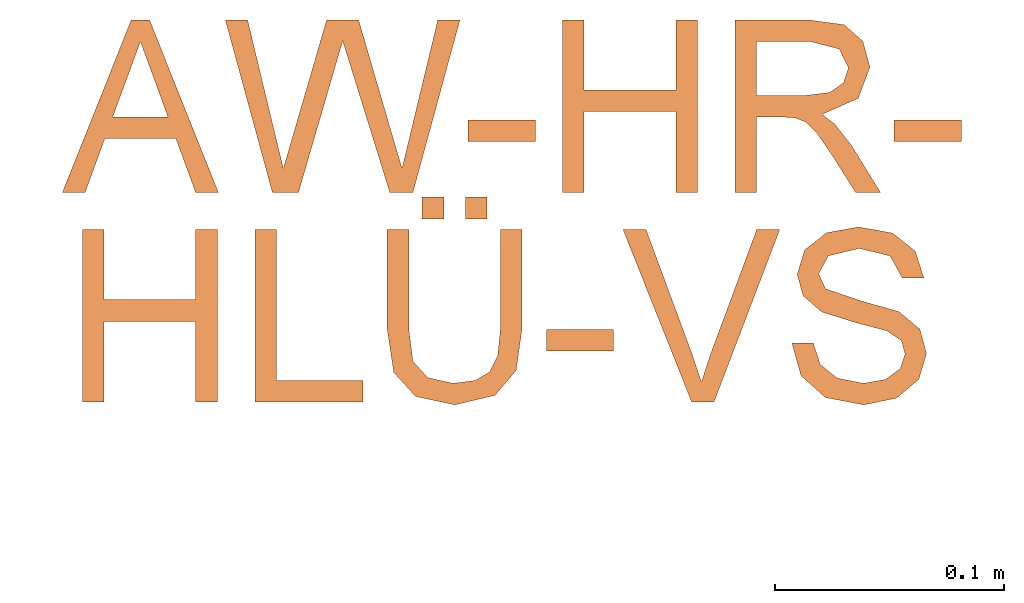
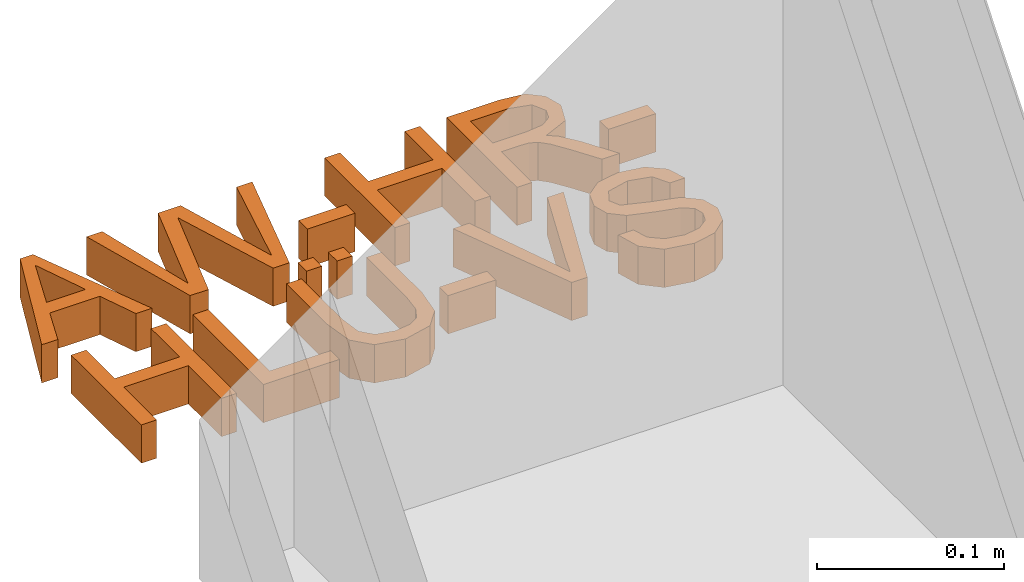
# Not in any storey, part 2 of 2: 1 proxy.
"""IFC4 model written with IfcOpenShell, lengths in metres."""

from ifc_helpers import new_model, entity, si_unit, converted_unit, derived_unit, direction, frame, origin, place, context, subcontext, project, spatial, indexed_curve, outline, extrude, type_object, element, save


model = new_model("IFC4")

# Units and contexts
model_context = context("Model", 3, precision=1e-05, world=origin(), true_north=direction((6.123031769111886e-17, 1.0)))
body_context = subcontext(model_context, "Body", "Model", "MODEL_VIEW")
ifc_project = project(units=[si_unit("LENGTHUNIT", "METRE"), si_unit("AREAUNIT", "SQUARE_METRE"), si_unit("VOLUMEUNIT", "CUBIC_METRE"), converted_unit("PLANEANGLEUNIT", "DEGREE", entity("IfcRatioMeasure", 0.017453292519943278), si_unit("PLANEANGLEUNIT", "RADIAN"), dimensions=[0, 0, 0, 0, 0, 0, 0]), si_unit("MASSUNIT", "GRAM", prefix="KILO"), derived_unit("MASSDENSITYUNIT", [(si_unit("MASSUNIT", "GRAM", prefix="KILO"), 1), (si_unit("LENGTHUNIT", "METRE"), -3)]), derived_unit("IONCONCENTRATIONUNIT", [(si_unit("MASSUNIT", "GRAM", prefix="KILO"), 1), (si_unit("LENGTHUNIT", "METRE"), -3)]), derived_unit("MOMENTOFINERTIAUNIT", [(si_unit("LENGTHUNIT", "METRE"), 4)]), si_unit("TIMEUNIT", "SECOND"), si_unit("FREQUENCYUNIT", "HERTZ"), si_unit("THERMODYNAMICTEMPERATUREUNIT", "DEGREE_CELSIUS"), derived_unit("THERMALTRANSMITTANCEUNIT", [(si_unit("MASSUNIT", "GRAM", prefix="KILO"), 1), (si_unit("THERMODYNAMICTEMPERATUREUNIT", "KELVIN"), -1), (si_unit("TIMEUNIT", "SECOND"), -3)]), derived_unit("THERMALCONDUCTANCEUNIT", [(si_unit("MASSUNIT", "GRAM", prefix="KILO"), 1), (si_unit("THERMODYNAMICTEMPERATUREUNIT", "KELVIN"), -1), (si_unit("TIMEUNIT", "SECOND"), -3), (si_unit("LENGTHUNIT", "METRE"), 1)]), derived_unit("VOLUMETRICFLOWRATEUNIT", [(si_unit("LENGTHUNIT", "METRE"), 3), (si_unit("TIMEUNIT", "SECOND"), -1)]), derived_unit("MASSFLOWRATEUNIT", [(si_unit("MASSUNIT", "GRAM", prefix="KILO"), 1), (si_unit("TIMEUNIT", "SECOND"), -1)]), derived_unit("ROTATIONALFREQUENCYUNIT", [(si_unit("TIMEUNIT", "SECOND"), -1)]), si_unit("ELECTRICCURRENTUNIT", "AMPERE"), si_unit("ELECTRICVOLTAGEUNIT", "VOLT"), si_unit("POWERUNIT", "WATT"), si_unit("FORCEUNIT", "NEWTON", prefix="KILO"), si_unit("ILLUMINANCEUNIT", "LUX"), si_unit("LUMINOUSFLUXUNIT", "LUMEN"), si_unit("LUMINOUSINTENSITYUNIT", "CANDELA"), derived_unit("USERDEFINED", [(si_unit("MASSUNIT", "GRAM", prefix="KILO"), -1), (si_unit("LENGTHUNIT", "METRE"), -2), (si_unit("TIMEUNIT", "SECOND"), 3), (si_unit("LUMINOUSFLUXUNIT", "LUMEN"), 1)]), derived_unit("USERDEFINED", [(si_unit("MASSUNIT", "GRAM", prefix="KILO"), 1), (si_unit("TIMEUNIT", "SECOND"), -3), (si_unit("LENGTHUNIT", "METRE"), 3), (si_unit("ELECTRICCURRENTUNIT", "AMPERE"), -2)]), derived_unit("SOUNDPOWERUNIT", [(si_unit("MASSUNIT", "GRAM", prefix="KILO"), 1), (si_unit("TIMEUNIT", "SECOND"), -3), (si_unit("LENGTHUNIT", "METRE"), 2)]), derived_unit("SOUNDPRESSUREUNIT", [(si_unit("MASSUNIT", "GRAM", prefix="KILO"), 1), (si_unit("LENGTHUNIT", "METRE"), -1), (si_unit("TIMEUNIT", "SECOND"), -2)]), derived_unit("LINEARVELOCITYUNIT", [(si_unit("LENGTHUNIT", "METRE"), 1), (si_unit("TIMEUNIT", "SECOND"), -1)]), si_unit("PRESSUREUNIT", "PASCAL"), derived_unit("USERDEFINED", [(si_unit("MASSUNIT", "GRAM", prefix="KILO"), 1), (si_unit("LENGTHUNIT", "METRE"), -2), (si_unit("TIMEUNIT", "SECOND"), -2)]), derived_unit("LINEARFORCEUNIT", [(si_unit("MASSUNIT", "GRAM", prefix="KILO"), 1), (si_unit("TIMEUNIT", "SECOND"), -2)]), derived_unit("PLANARFORCEUNIT", [(si_unit("MASSUNIT", "GRAM", prefix="KILO"), 1), (si_unit("LENGTHUNIT", "METRE"), -1), (si_unit("TIMEUNIT", "SECOND"), -2)]), derived_unit("SPECIFICHEATCAPACITYUNIT", [(si_unit("THERMODYNAMICTEMPERATUREUNIT", "KELVIN"), -1), (si_unit("LENGTHUNIT", "METRE"), 2), (si_unit("TIMEUNIT", "SECOND"), -2)]), derived_unit("HEATINGVALUEUNIT", [(si_unit("LENGTHUNIT", "METRE"), 2), (si_unit("TIMEUNIT", "SECOND"), -2)]), derived_unit("VAPORPERMEABILITYUNIT", [(si_unit("LENGTHUNIT", "METRE"), -1), (si_unit("TIMEUNIT", "SECOND"), 1)]), derived_unit("DYNAMICVISCOSITYUNIT", [(si_unit("MASSUNIT", "GRAM", prefix="KILO"), 1), (si_unit("TIMEUNIT", "SECOND"), -1), (si_unit("LENGTHUNIT", "METRE"), -1)]), derived_unit("THERMALEXPANSIONCOEFFICIENTUNIT", [(si_unit("THERMODYNAMICTEMPERATUREUNIT", "KELVIN"), -1)]), derived_unit("MODULUSOFELASTICITYUNIT", [(si_unit("MASSUNIT", "GRAM", prefix="KILO"), 1), (si_unit("LENGTHUNIT", "METRE"), -1), (si_unit("TIMEUNIT", "SECOND"), -2)]), derived_unit("ISOTHERMALMOISTURECAPACITYUNIT", [(si_unit("LENGTHUNIT", "METRE"), 3), (si_unit("MASSUNIT", "GRAM", prefix="KILO"), -1)]), derived_unit("MOISTUREDIFFUSIVITYUNIT", [(si_unit("TIMEUNIT", "SECOND"), -1), (si_unit("LENGTHUNIT", "METRE"), 2)])], contexts=[model_context])

# Site
site_placement = place(None, origin())
site = spatial("IfcSite", under=ifc_project, at=site_placement, Name="Default", CompositionType="ELEMENT")

# Proxy
building_element_proxy_type = type_object("IfcBuildingElementProxyType", Name="Modelltext:075mm Arial", PredefinedType="NOTDEFINED")
proxy_placement = place(site_placement, origin())
element("IfcBuildingElementProxy", 1, at=proxy_placement, inside=site, type_object=building_element_proxy_type, Name="Modelltext:075mm Arial", ObjectType="Modelltext:075mm Arial", PredefinedType="NOTDEFINED", context=body_context, shape_type="SweptSolid", body=[
    extrude(outline(indexed_curve([(-0.03408196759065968, -0.02472167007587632), (-0.024130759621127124, -0.02472167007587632), (-0.015522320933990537, -0.0011772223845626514), (0.015508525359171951, -0.0011772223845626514), (0.024135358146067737, -0.02472167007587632), (0.03408656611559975, -0.02472167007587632), (0.0040122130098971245, 0.05062056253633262), (-0.004007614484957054, 0.05062056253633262), (-0.03408196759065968, -0.02472167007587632)], self_intersect=False), holes=[indexed_curve([(-0.012064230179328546, 0.008240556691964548), (-0.004688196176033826, 0.0283820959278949), (2.299262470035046e-06, 0.041202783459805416), (0.005281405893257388, 0.026763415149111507), (0.012068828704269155, 0.008240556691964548), (-0.012064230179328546, 0.008240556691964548)], self_intersect=False)]), frame((2.475415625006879, 47.88453968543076, 0.0)), (0.0, 0.0, 1.0), 0.025),
    extrude(outline(indexed_curve([(-0.03048676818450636, -0.04038957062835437), (-0.019119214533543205, -0.04038957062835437), (-0.002656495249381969, 0.01608031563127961), (0.00017619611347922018, 0.025847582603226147), (0.002696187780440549, 0.0177357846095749), (0.020759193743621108, -0.04038957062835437), (0.030820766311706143, -0.04038957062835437), (0.05138536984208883, 0.03495266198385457), (0.04167328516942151, 0.03495266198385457), (0.02964354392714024, -0.01500571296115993), (0.02607508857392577, -0.029849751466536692), (0.018000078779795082, -0.002221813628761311), (0.007147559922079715, 0.03495266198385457), (-0.006850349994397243, 0.03495266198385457), (-0.021786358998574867, -0.016330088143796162), (-0.02572269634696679, -0.029849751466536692), (-0.02940151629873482, -0.014564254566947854), (-0.04132089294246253, 0.03495266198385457), (-0.05103297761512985, 0.03495266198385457), (-0.03048676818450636, -0.04038957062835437)], self_intersect=False)), frame((2.5635334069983, 47.90020758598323, 0.0)), (0.0, 0.0, 1.0), 0.025),
    extrude(outline(indexed_curve([(-0.014715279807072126, -0.004708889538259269), (0.014715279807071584, -0.004708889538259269), (0.014715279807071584, 0.004708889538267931), (-0.014715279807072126, 0.004708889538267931), (-0.014715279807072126, -0.004708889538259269)], self_intersect=False)), frame((2.633165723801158, 47.88689413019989, 0.0)), (0.0, 0.0, 1.0), 0.025),
    extrude(outline(indexed_curve([(-0.02943055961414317, -0.038455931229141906), (-0.020012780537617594, -0.038455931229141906), (-0.020012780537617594, -0.0031392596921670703), (0.020012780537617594, -0.0031392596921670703), (0.020012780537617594, -0.038455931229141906), (0.02943055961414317, -0.038455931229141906), (0.02943055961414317, 0.03688630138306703), (0.020012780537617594, 0.03688630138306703), (0.020012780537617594, 0.006278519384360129), (-0.020012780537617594, 0.006278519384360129), (-0.020012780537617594, 0.03688630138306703), (-0.02943055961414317, 0.03688630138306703), (-0.02943055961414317, -0.038455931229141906)], self_intersect=False)), frame((2.68908378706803, 47.89827394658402, 0.0)), (0.0, 0.0, 1.0), 0.025),
    extrude(outline(indexed_curve([(-0.035363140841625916, -0.0337691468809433), (-0.0259453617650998, -0.0337691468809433), (-0.0259453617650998, -0.0008069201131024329), (-0.014577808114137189, -0.0008069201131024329), (-0.009114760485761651, -0.0011380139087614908), (-0.00463579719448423, -0.00293143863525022), (0.0003398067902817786, -0.007815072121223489), (0.007421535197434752, -0.01815255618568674), (0.017225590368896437, -0.0337691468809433), (0.028170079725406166, -0.0337691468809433), (0.01560690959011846, -0.013351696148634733), (0.007973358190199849, -0.003658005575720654), (0.0026206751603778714, 0.00037030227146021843), (0.018393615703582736, 0.007378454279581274), (0.023497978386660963, 0.020953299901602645), (0.020416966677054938, 0.032348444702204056), (0.01217640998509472, 0.039540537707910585), (-0.0028975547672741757, 0.041573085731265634), (-0.035363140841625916, 0.041573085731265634), (-0.035363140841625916, -0.0337691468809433)], self_intersect=False), holes=[indexed_curve([(-0.0259453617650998, 0.008610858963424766), (-0.0259453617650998, 0.03215530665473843), (-0.0024928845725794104, 0.03215530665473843), (0.01009787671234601, 0.028899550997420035), (0.014080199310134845, 0.020603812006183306), (0.011992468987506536, 0.01421186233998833), (0.005885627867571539, 0.009944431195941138), (-0.0048657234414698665, 0.008610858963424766), (-0.0259453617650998, 0.008610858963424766)], self_intersect=False)]), frame((2.7703586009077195, 47.893587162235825, 0.0)), (0.0, 0.0, 1.0), 0.025),
    extrude(outline(indexed_curve([(-0.014715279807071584, -0.004708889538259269), (0.014715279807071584, -0.004708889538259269), (0.014715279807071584, 0.004708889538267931), (-0.014715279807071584, 0.004708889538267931), (-0.014715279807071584, -0.004708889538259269)], self_intersect=False)), frame((2.8191668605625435, 47.88689413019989, 0.0)), (0.0, 0.0, 1.0), 0.025),
    extrude(outline(indexed_curve([(-0.02943055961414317, -0.03845593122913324), (-0.020012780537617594, -0.03845593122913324), (-0.020012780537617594, -0.0031392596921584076), (0.020012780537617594, -0.0031392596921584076), (0.020012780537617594, -0.03845593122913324), (0.02943055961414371, -0.03845593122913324), (0.02943055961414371, 0.03688630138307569), (0.020012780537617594, 0.03688630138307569), (0.020012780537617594, 0.006278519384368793), (-0.020012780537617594, 0.006278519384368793), (-0.020012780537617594, 0.03688630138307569), (-0.02943055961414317, 0.03688630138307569), (-0.02943055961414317, -0.03845593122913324)], self_intersect=False)), frame((2.479538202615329, 47.80679283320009, 0.0)), (0.0, 0.0, 1.0), 0.025),
    extrude(outline(indexed_curve([(-0.01883555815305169, -0.0282533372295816), (0.028253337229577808, -0.0282533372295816), (0.028253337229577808, -0.0188355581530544), (-0.009417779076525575, -0.0188355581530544), (-0.009417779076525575, 0.04708889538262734), (-0.01883555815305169, 0.04708889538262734), (-0.01883555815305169, -0.0282533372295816)], self_intersect=False)), frame((2.5442854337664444, 47.79659023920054, 0.0)), (0.0, 0.0, 1.0), 0.025),
    extrude(outline(indexed_curve([(-0.004708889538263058, -0.004708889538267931), (0.004708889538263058, -0.004708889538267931), (0.004708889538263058, 0.004708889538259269), (-0.004708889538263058, 0.004708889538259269), (-0.004708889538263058, -0.004708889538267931)], self_intersect=False)), frame((2.6031465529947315, 47.8530969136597, 0.0)), (0.0, 0.0, 1.0), 0.025),
    extrude(outline(indexed_curve([(-0.046888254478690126, -0.0193050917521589), (-0.046888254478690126, -0.02872287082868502), (-0.003422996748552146, -0.02872287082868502), (0.014594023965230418, -0.026166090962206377), (0.02544654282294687, -0.016950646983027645), (0.02963120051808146, 0.0005237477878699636), (0.025989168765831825, 0.01773142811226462), (0.015440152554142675, 0.027277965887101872), (-0.003422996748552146, 0.030138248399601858), (-0.046888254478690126, 0.030138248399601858), (-0.046888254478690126, 0.02072046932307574), (-0.0037540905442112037, 0.02072046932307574), (0.010602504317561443, 0.018862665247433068), (0.017711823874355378, 0.012479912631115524), (0.02021342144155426, 0.0014066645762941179), (0.01897641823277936, -0.008172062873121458), (0.015265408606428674, -0.014541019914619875), (0.008036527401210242, -0.018114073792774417), (-0.0037540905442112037, -0.0193050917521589), (-0.046888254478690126, -0.0193050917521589)], self_intersect=False)), frame((2.6132720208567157, 47.79679088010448, 0.0), z_axis=(0.0, 0.0, -1.0), x_axis=(0.0, -1.0, 0.0)), (0.0, 0.0, -1.0), 0.025),
    extrude(outline(indexed_curve([(-0.004708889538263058, -0.004708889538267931), (0.004708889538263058, -0.004708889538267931), (0.004708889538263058, 0.004708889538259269), (-0.004708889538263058, 0.004708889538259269), (-0.004708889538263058, -0.004708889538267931)], self_intersect=False)), frame((2.621982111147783, 47.8530969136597, 0.0)), (0.0, 0.0, 1.0), 0.025),
    extrude(outline(indexed_curve([(-0.014715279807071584, -0.004708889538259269), (0.014715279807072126, -0.004708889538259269), (0.014715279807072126, 0.004708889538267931), (-0.014715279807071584, 0.004708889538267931), (-0.014715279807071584, -0.004708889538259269)], self_intersect=False)), frame((2.6673051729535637, 47.79541301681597, 0.0)), (0.0, 0.0, 1.0), 0.025),
    extrude(outline(indexed_curve([(-0.004365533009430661, -0.03914673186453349), (0.0053649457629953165, -0.03914673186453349), (0.034078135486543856, 0.03619550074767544), (0.023998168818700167, 0.03619550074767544), (0.0038750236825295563, -0.018085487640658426), (-0.0001348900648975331, -0.03031756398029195), (-0.004199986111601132, -0.018085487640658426), (-0.024267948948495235, 0.03619550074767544), (-0.034347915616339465, 0.03619550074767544), (-0.004365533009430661, -0.03914673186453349)], self_intersect=False)), frame((2.7204150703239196, 47.807483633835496, 0.0)), (0.0, 0.0, 1.0), 0.025),
    extrude(outline(indexed_curve([(0.002399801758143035, -0.03215766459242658), (0.017347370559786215, -0.03215766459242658), (0.02941028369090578, -0.024508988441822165), (0.03702952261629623, -0.009182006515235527), (0.03808060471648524, 0.0053251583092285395), (0.03280960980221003, 0.01690726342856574), (0.022885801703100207, 0.02321933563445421), (0.01183914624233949, 0.023292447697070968), (0.0020146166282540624, 0.01659769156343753), (-0.007066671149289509, 0.0018463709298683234), (-0.016311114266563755, -0.011520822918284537), (-0.02341029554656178, -0.01263020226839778), (-0.029782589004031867, -0.0064329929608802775), (-0.02923117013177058, 0.007422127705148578), (-0.022423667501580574, 0.019470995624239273), (-0.011662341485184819, 0.02197296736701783), (-0.009101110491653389, 0.031035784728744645), (-0.021462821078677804, 0.030649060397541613), (-0.03175776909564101, 0.023236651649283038), (-0.03839403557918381, 0.00962934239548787), (-0.03972159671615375, -0.00450341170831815), (-0.03507570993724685, -0.015727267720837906), (-0.025706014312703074, -0.021768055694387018), (-0.015978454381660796, -0.021774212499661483), (-0.007055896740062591, -0.015971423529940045), (0.0014279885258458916, -0.003029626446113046), (0.008617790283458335, 0.009188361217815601), (0.014474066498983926, 0.014185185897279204), (0.02055468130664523, 0.014091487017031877), (0.026067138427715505, 0.010364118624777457), (0.02888791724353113, 0.0029628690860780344), (0.02786665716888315, -0.0069747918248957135), (0.022609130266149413, -0.01722529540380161), (0.014858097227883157, -0.022737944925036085), (0.004961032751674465, -0.02309484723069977), (0.002399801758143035, -0.03215766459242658)], self_intersect=False)), frame((2.7900101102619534, 47.80529064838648, 0.0), z_axis=(0.0, 0.0, 1.0), x_axis=(0.27195700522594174, -0.9623094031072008, 0.0)), (0.0, 0.0, 1.0), 0.025),
])

save(model, "model.ifc")
